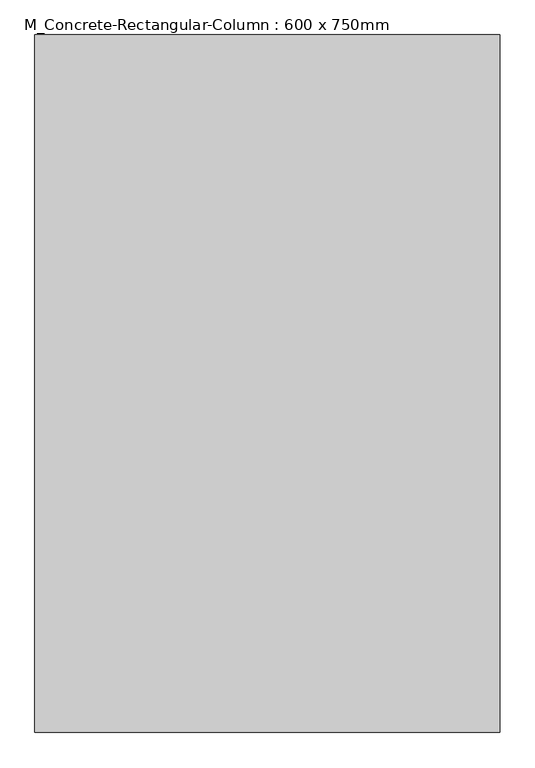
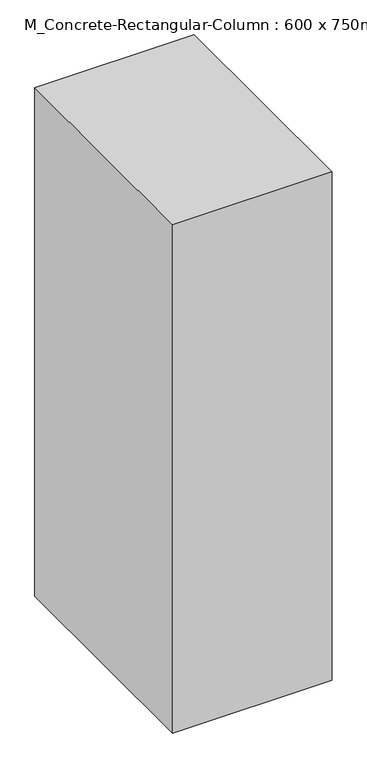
"""IFC4 building model written with IfcOpenShell, lengths in millimetres: column geometry, M_Concrete-Rectangular-Column : 600 x 750mm."""

import ifcopenshell
import ifcopenshell.guid

model = None  # the IFC model being written
_history = None  # IfcOwnerHistory: only IFC2X3 demands one
_inside = {}  # id of a spatial element -> (the spatial element, [elements in it])
_under = {}  # id of a project, library or spatial element -> (it, [spatial elements below it])
_declared = {}  # id of a project -> (the project, [libraries it declares])
_typed = {}  # id of a type object -> (the type object, [elements of that type])
_made_of = {}  # id of a material, layer set ... -> (it, [elements and type objects made of it])


def new_model(schema):
    """Start an empty IFC model of exactly this schema.

    Asked for "IFC4X3", IfcOpenShell would pick the latest addendum, in which some entities
    have other attributes; the version numbers below select the first issue.
    IFC2X3 requires an IfcOwnerHistory on every rooted entity: one is made here for all.
    """
    global model, _history
    if schema == "IFC4X3":
        model = ifcopenshell.file(schema_version=(4, 3, 0, 0))
    else:
        model = ifcopenshell.file(schema=schema)
    _inside.clear()
    _under.clear()
    _declared.clear()
    _typed.clear()
    _made_of.clear()
    _history = None
    if model.schema == "IFC2X3":
        org = make("IfcOrganization", Name="unknown")
        user = make(
            "IfcPersonAndOrganization",
            ThePerson=make("IfcPerson", FamilyName="unknown"),
            TheOrganization=org,
        )
        app = make(
            "IfcApplication",
            ApplicationDeveloper=org,
            Version="unknown",
            ApplicationFullName="unknown",
            ApplicationIdentifier="unknown",
        )
        _history = make(
            "IfcOwnerHistory",
            OwningUser=user,
            OwningApplication=app,
            ChangeAction="ADDED",
            CreationDate=0,
        )
    return model


def make(cls, **values):
    """One entity of the class cls with the attributes given. An attribute that is None is left unset."""
    return model.create_entity(
        cls, **{name: value for name, value in values.items() if value is not None}
    )


def rooted(cls, **values):
    """An entity with a GlobalId (a new one), such as an element, a storey or a relation."""
    return make(cls, GlobalId=ifcopenshell.guid.new(), OwnerHistory=_history, **values)


def si_unit(unit_type, name, prefix=None):
    """IfcSIUnit, for example si_unit("LENGTHUNIT", "METRE", prefix="MILLI")."""
    return make("IfcSIUnit", UnitType=unit_type, Prefix=prefix, Name=name)


def assignment(units):
    """IfcUnitAssignment: the units of a project."""
    return None if units is None else make("IfcUnitAssignment", Units=units)


def point(xyz):
    """IfcCartesianPoint."""
    return None if xyz is None else make("IfcCartesianPoint", Coordinates=xyz)


def direction(xyz):
    """IfcDirection."""
    return None if xyz is None else make("IfcDirection", DirectionRatios=xyz)


def frame(location, z_axis=None, x_axis=None):
    """IfcAxis2Placement3D, a coordinate frame: its origin and axes. An axis left out is left unset."""
    return make(
        "IfcAxis2Placement3D",
        Location=point(location),
        Axis=direction(z_axis),
        RefDirection=direction(x_axis),
    )


def origin():
    """The frame at (0, 0, 0) with its axes left unset."""
    return frame((0.0, 0.0, 0.0))


def origin_with_axes():
    """The frame at (0, 0, 0) with the z axis (0, 0, 1) and the x axis (1, 0, 0) written out."""
    return frame((0.0, 0.0, 0.0), z_axis=(0.0, 0.0, 1.0), x_axis=(1.0, 0.0, 0.0))


def place(relative_to, where):
    """IfcLocalPlacement: puts the frame where relative to a parent placement (None: the world)."""
    return make(
        "IfcLocalPlacement", PlacementRelTo=relative_to, RelativePlacement=where
    )


def context(
    kind, dimensions, precision=None, world=None, true_north=None, identifier=None
):
    """IfcGeometricRepresentationContext, for example the 3D "Model" context."""
    return make(
        "IfcGeometricRepresentationContext",
        ContextIdentifier=identifier,
        ContextType=kind,
        CoordinateSpaceDimension=dimensions,
        Precision=precision,
        WorldCoordinateSystem=world,
        TrueNorth=true_north,
    )


def project(units=None, contexts=None):
    """IfcProject with its units and contexts."""
    return rooted(
        "IfcProject",
        Name="project",
        RepresentationContexts=contexts,
        UnitsInContext=assignment(units),
    )


def spatial(cls, under=None, at=None, **own):
    """A site, building, storey or space (cls), placed at a placement, below another one or the project."""
    s = rooted(cls, ObjectPlacement=at, **own)
    if under is not None:
        _under.setdefault(under.id(), (under, []))[1].append(s)
    return s


def polyline(points):
    """IfcPolyline through the points."""
    return make("IfcPolyline", Points=[point(p) for p in points])


def outline(outer, holes=None, kind="AREA"):
    """IfcArbitraryClosedProfileDef: a profile drawn as a closed curve; with holes, ...WithVoids."""
    if holes is None:
        return make("IfcArbitraryClosedProfileDef", ProfileType=kind, OuterCurve=outer)
    return make(
        "IfcArbitraryProfileDefWithVoids",
        ProfileType=kind,
        OuterCurve=outer,
        InnerCurves=holes,
    )


def extrude(swept, where, along, depth):
    """IfcExtrudedAreaSolid: the profile swept, set in the frame where, extruded along a direction by depth."""
    return make(
        "IfcExtrudedAreaSolid",
        SweptArea=swept,
        Position=where,
        ExtrudedDirection=direction(along),
        Depth=depth,
    )


def shape(context_of_items, identifier, shape_type, items):
    """IfcShapeRepresentation: the items that make up one representation, for example the "Body"."""
    return make(
        "IfcShapeRepresentation",
        ContextOfItems=context_of_items,
        RepresentationIdentifier=identifier,
        RepresentationType=shape_type,
        Items=items,
    )


def source(mapping_origin, context_of_items, identifier, shape_type, items):
    """IfcRepresentationMap: a shape defined once, which mapped items show again and again."""
    return make(
        "IfcRepresentationMap",
        MappingOrigin=mapping_origin,
        MappedRepresentation=shape(context_of_items, identifier, shape_type, items),
    )


def transform(
    local_origin,
    x_axis=None,
    y_axis=None,
    z_axis=None,
    scale=None,
    scale2=None,
    scale3=None,
    uniform=True,
):
    """IfcCartesianTransformationOperator3D, or its non-uniform kind. x_axis, y_axis, z_axis: its Axis1, 2, 3."""
    if uniform:
        return make(
            "IfcCartesianTransformationOperator3D",
            Axis1=direction(x_axis),
            Axis2=direction(y_axis),
            LocalOrigin=point(local_origin),
            Scale=scale,
            Axis3=direction(z_axis),
        )
    return make(
        "IfcCartesianTransformationOperator3DnonUniform",
        Axis1=direction(x_axis),
        Axis2=direction(y_axis),
        LocalOrigin=point(local_origin),
        Scale=scale,
        Axis3=direction(z_axis),
        Scale2=scale2,
        Scale3=scale3,
    )


def mapped(mapping_source, mapping_target):
    """IfcMappedItem: shows the shape of a source again, moved by a transform."""
    return make(
        "IfcMappedItem", MappingSource=mapping_source, MappingTarget=mapping_target
    )


def made_of(thing, what):
    """Note that an element or type object is made of a material, layer set ...; save() writes the relation."""
    if what is not None:
        _made_of.setdefault(what.id(), (what, []))[1].append(thing)
    return thing


def element(
    cls,
    number,
    at=None,
    inside=None,
    cuts=None,
    type_object=None,
    material=None,
    context=None,
    identifier="Body",
    shape_type=None,
    held_by="IfcProductDefinitionShape",
    body=None,
    shapes=None,
    **own,
):
    """One element of the class cls, such as IfcWall. Its Tag is "e" and its number.

    at: its placement. inside: the storey or other place that contains it. cuts: it is an
    opening in that element (IfcRelVoidsElement). A single representation is given by context,
    identifier, shape_type and body (its items); several are given by shapes. held_by: the class
    of the entity that holds the representations. save() writes the other relations.
    """
    e = rooted(cls, Tag="e%d" % number, ObjectPlacement=at, **own)
    if body is not None:
        shapes = [shape(context, identifier, shape_type, body)]
    if shapes is not None:
        e.Representation = make(held_by, Representations=shapes)
    if inside is not None:
        _inside.setdefault(inside.id(), (inside, []))[1].append(e)
    if cuts is not None:
        rooted(
            "IfcRelVoidsElement", RelatingBuildingElement=cuts, RelatedOpeningElement=e
        )
    if type_object is not None:
        _typed.setdefault(type_object.id(), (type_object, []))[1].append(e)
    return made_of(e, material)


def aggregate(whole, parts):
    """IfcRelAggregates: a whole, such as a stair, and the parts it consists of."""
    return rooted("IfcRelAggregates", RelatingObject=whole, RelatedObjects=parts)


def save(model, path):
    """Write the relations noted so far, then the file.

    IfcRelAggregates (storeys below a building ...), IfcRelContainedInSpatialStructure (elements
    in a storey), IfcRelDefinesByType, IfcRelAssociatesMaterial and IfcRelDeclares: one each for
    every whole, place, type object, material and project.
    """
    for whole, parts in _under.values():
        aggregate(whole, parts)
    for where, things in _inside.values():
        rooted(
            "IfcRelContainedInSpatialStructure",
            RelatedElements=things,
            RelatingStructure=where,
        )
    for kind, things in _typed.values():
        rooted("IfcRelDefinesByType", RelatedObjects=things, RelatingType=kind)
    for what, things in _made_of.values():
        rooted("IfcRelAssociatesMaterial", RelatedObjects=things, RelatingMaterial=what)
    for by, libraries in _declared.values():
        rooted("IfcRelDeclares", RelatingContext=by, RelatedDefinitions=libraries)
    model.write(path)


def m_concrete_rectangular_column_600_x_750mm_d22e657e(model_context):
    return source(origin(), model_context, "Body", "SweptSolid", [
        extrude(outline(polyline([(400.0, 600.0), (400.0, -600.0), (-400.0, -600.0), (-400.0, 600.0), (400.0, 600.0)])), origin_with_axes(), (0.0, 0.0, 1.0), 2700.0),
    ])


if __name__ == "__main__":
    model = new_model("IFC4")
    model_context = context("Model", 3, world=origin())
    ifc_project = project(units=[si_unit("LENGTHUNIT", "METRE", prefix="MILLI")], contexts=[model_context])
    site = spatial("IfcSite", under=ifc_project)
    building = spatial("IfcBuilding", under=site)
    placement = place(None, origin())
    m_concrete_rectangular_column_600_x_750mm_shape = m_concrete_rectangular_column_600_x_750mm_d22e657e(model_context)
    element("IfcColumn", 1, ObjectType="M_Concrete-Rectangular-Column : 600 x 750mm", at=placement, inside=building, context=model_context, shape_type="MappedRepresentation", body=[
        mapped(m_concrete_rectangular_column_600_x_750mm_shape, transform((0.0, 0.0, 0.0), x_axis=(1.0, 0.0, 0.0), y_axis=(0.0, 1.0, 0.0), z_axis=(0.0, 0.0, 1.0))),
    ])
    save(model, "model.ifc")
